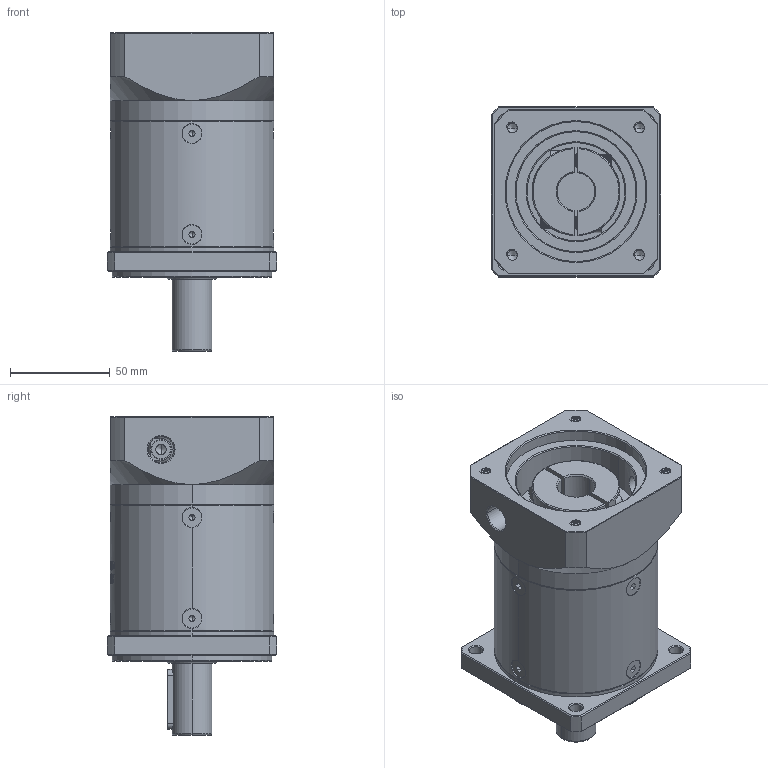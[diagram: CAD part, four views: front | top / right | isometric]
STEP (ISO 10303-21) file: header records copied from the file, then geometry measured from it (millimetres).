
FILE_DESCRIPTION (( 'STEP AP214' ), '1' );
FILE_NAME ('ZF080-D20-L2-P2-19-70-90-M6.step', '2023-08-19T05:29:25', ( '' ), ( '' ), 'SwSTEP 2.0', 'SolidWorks 2016', '' );
FILE_SCHEMA (( 'AUTOMOTIVE_DESIGN' ));
Length unit declared in the file: millimetre
Products named in the file (1): ZF080-D20-L2-P2-19-70-90-M6
Bounding box: 85 x 85 x 159.5 mm (x, y, z)
Volume: 634607.7 mm3; surface area: 91269.9 mm2
Topology: 13 solids, 13 shells, 2224 faces, 5828 edges, 3702 vertices
Faces by surface type: plane 1066, bspline 394, cylinder 390, cone 337, torus 37
Entity records: 118958 total; most frequent: CARTESIAN_POINT 44791, ORIENTED_EDGE 11596, DIRECTION 8592, EDGE_CURVE 5798, VERTEX_POINT 3702, LINE 3078, VECTOR 3078, AXIS2_PLACEMENT_3D 2757
